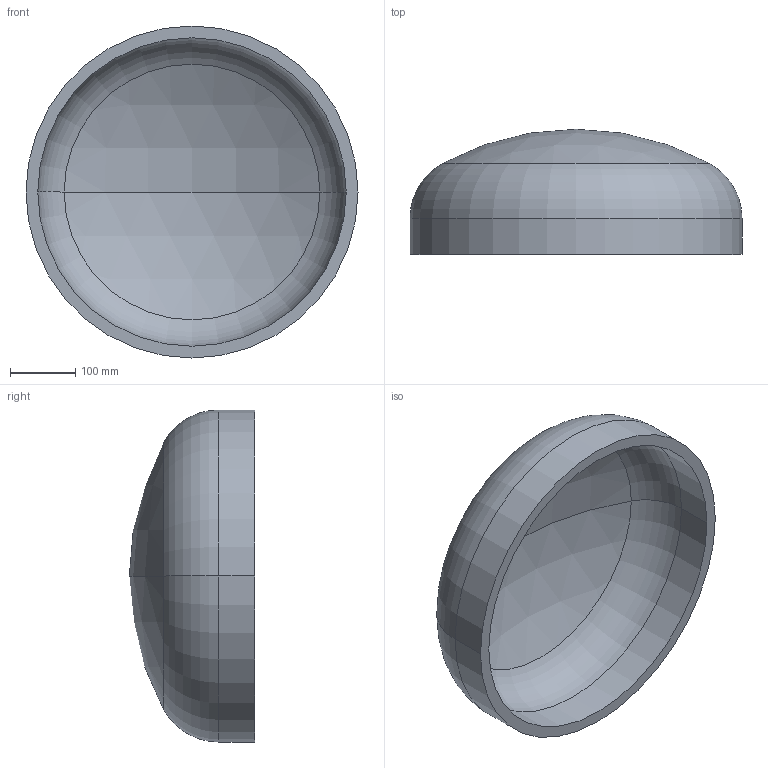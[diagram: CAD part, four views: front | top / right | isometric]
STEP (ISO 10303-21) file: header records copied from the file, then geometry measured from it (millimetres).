
FILE_DESCRIPTION (( 'STEP AP203' ), '1' );
FILE_NAME ('DIN 28013 Korbbogenform_-_Boden DIN 28013 - 508 x 55 - I - s=18.step', '2016-07-01T07:52:53', ( '' ), ( '' ), 'SwSTEP 2.0', 'SolidWorks 2013', '' );
FILE_SCHEMA (( 'CONFIG_CONTROL_DESIGN' ));
Length unit declared in the file: millimetre
Products named in the file (1): DIN 28013 Korbbogenform_-_Boden DIN 28013 - 508 x 55 - I - s=18
Bounding box: 508 x 191.56 x 508 mm (x, y, z)
Volume: 6346686.9 mm3; surface area: 733574.7 mm2
Topology: 1 solids, 1 shells, 13 faces, 24 edges, 14 vertices
Faces by surface type: torus 4, cylinder 4, sphere 4, plane 1
Entity records: 407 total; most frequent: DIRECTION 72, CARTESIAN_POINT 52, ORIENTED_EDGE 48, AXIS2_PLACEMENT_3D 34, EDGE_CURVE 24, CIRCLE 20, VERTEX_POINT 14, EDGE_LOOP 14
